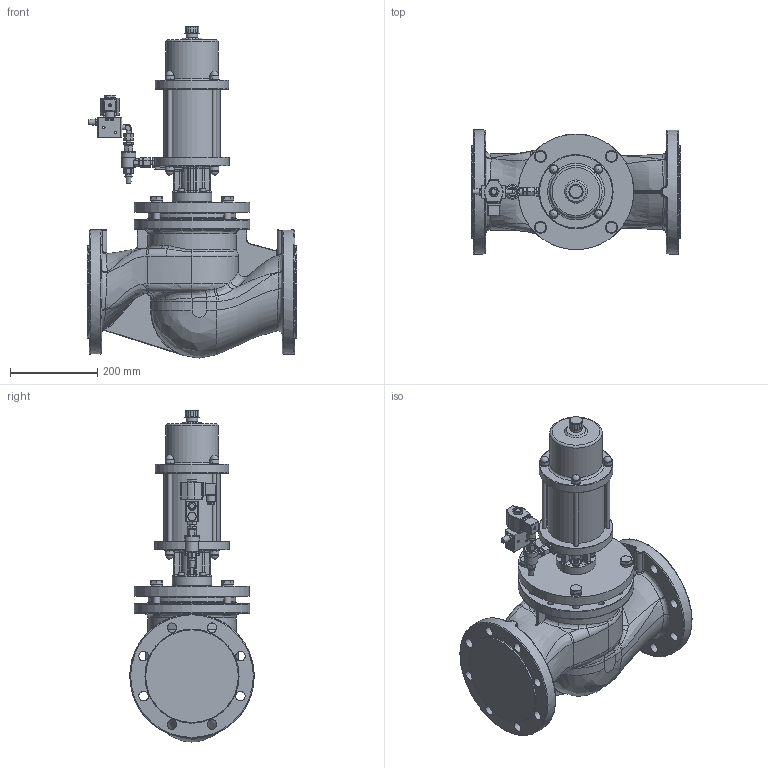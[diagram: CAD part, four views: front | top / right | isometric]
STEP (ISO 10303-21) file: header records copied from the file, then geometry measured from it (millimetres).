
FILE_DESCRIPTION((''),'2;1');
FILE_NAME('G:\CAD-Download\EPVA\10-4-EPVA\10-4-EPVA 150-4.00.32.stp','2010-03-29T13:00:32',('hb'),(''),'Autodesk Inventor 2008','Autodesk Inventor 2008','');
FILE_SCHEMA(('AUTOMOTIVE_DESIGN { 1 0 10303 214 1 1 1 1 }'));
Length unit declared in the file: millimetre
Products named in the file (1): 10-4-EPVA 150-4.00
Bounding box: 480 x 285 x 761.05 mm (x, y, z)
Volume: 25162685 mm3; surface area: 1082429.8 mm2
Topology: 1 solids, 1 shells, 1254 faces, 3259 edges, 1992 vertices
Faces by surface type: plane 492, cylinder 294, bspline 292, cone 106, torus 45, sphere 25
Full cylindrical faces by diameter (mm): 5.5 x1, 6.4 x1, 6.9 x1, 8 x8, 10 x14, 11.405 x1, 11.445 x1, 13 x4, 14 x1, 14.376 x1, 16 x13, 19 x3, 19.3 x8, 20.15 x2, 20.8 x8, 21.5 x1, 22 x8, 22.49 x4, 26.6 x1, 30 x1, 32.2 x1, 34 x1, 50 x1, 90 x1, 120 x1, 130 x1, 169 x1, 170 x1, 194.5 x1, 194.8 x1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
Entity records: 66515 total; most frequent: CARTESIAN_POINT 37872, ORIENTED_EDGE 5802, DIRECTION 5269, EDGE_CURVE 2901, AXIS2_PLACEMENT_3D 2122, VERTEX_POINT 1870, EDGE_LOOP 1640, FACE_OUTER_BOUND 1253
